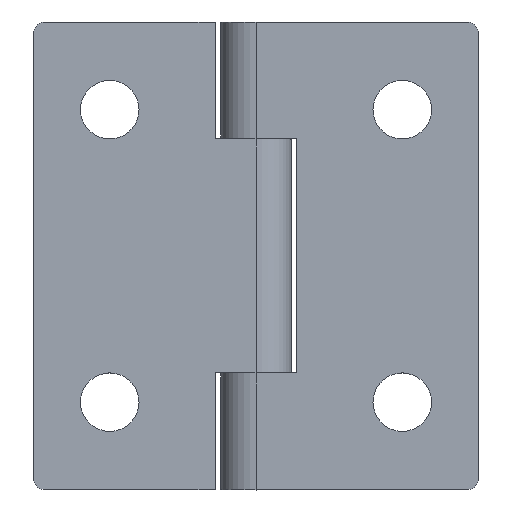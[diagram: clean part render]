
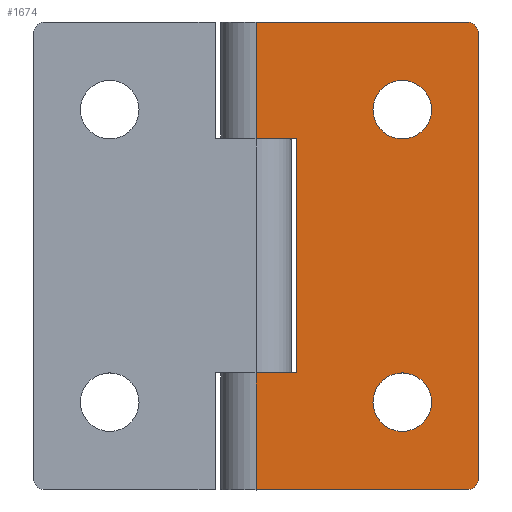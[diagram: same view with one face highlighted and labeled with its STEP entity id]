
A CAD part, top view. The second image highlights one B-rep face of the part: STEP entity #1674.
In plain terms, the highlighted planar face has unit normal (0, 0, 1).
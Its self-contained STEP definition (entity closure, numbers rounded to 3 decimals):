
#24 = CIRCLE ( 'NONE', #1580, 2.5 ) ;
#39 = EDGE_LOOP ( 'NONE', ( #1822, #1374 ) ) ;
#42 = ORIENTED_EDGE ( 'NONE', *, *, #43, .T. ) ;
#43 = EDGE_CURVE ( 'NONE', #1306, #1433, #698, .T. ) ;
#64 = CARTESIAN_POINT ( 'NONE',  ( 19., 39., 3. ) ) ;
#69 = VECTOR ( 'NONE', #1516, 1000. ) ;
#159 = LINE ( 'NONE', #240, #1702 ) ;
#187 = VECTOR ( 'NONE', #322, 1000. ) ;
#200 = ORIENTED_EDGE ( 'NONE', *, *, #708, .F. ) ;
#209 = VERTEX_POINT ( 'NONE', #1274 ) ;
#240 = CARTESIAN_POINT ( 'NONE',  ( 0., 10., 3. ) ) ;
#260 = CARTESIAN_POINT ( 'NONE',  ( 0., 30., 3. ) ) ;
#305 = CARTESIAN_POINT ( 'NONE',  ( 12.5, 7.5, 3. ) ) ;
#309 = EDGE_CURVE ( 'NONE', #1433, #1281, #1877, .T. ) ;
#322 = DIRECTION ( 'NONE',  ( -1., 0., 0. ) ) ;
#344 = FACE_BOUND ( 'NONE', #39, .T. ) ;
#350 = CARTESIAN_POINT ( 'NONE',  ( 0., 40., 3. ) ) ;
#365 = VECTOR ( 'NONE', #852, 1000. ) ;
#374 = CARTESIAN_POINT ( 'NONE',  ( 12.5, 32.5, 3. ) ) ;
#396 = ORIENTED_EDGE ( 'NONE', *, *, #1036, .F. ) ;
#416 = VERTEX_POINT ( 'NONE', #1062 ) ;
#428 = ORIENTED_EDGE ( 'NONE', *, *, #735, .F. ) ;
#450 = DIRECTION ( 'NONE',  ( 1., 0., 0. ) ) ;
#453 = VERTEX_POINT ( 'NONE', #458 ) ;
#455 = LINE ( 'NONE', #1706, #1561 ) ;
#458 = CARTESIAN_POINT ( 'NONE',  ( 3.5, 10., 3. ) ) ;
#459 = CARTESIAN_POINT ( 'NONE',  ( 10., 7.5, 3. ) ) ;
#489 = AXIS2_PLACEMENT_3D ( 'NONE', #552, #1604, #705 ) ;
#490 = CARTESIAN_POINT ( 'NONE',  ( 19., 1., 3. ) ) ;
#491 = DIRECTION ( 'NONE',  ( 0., -1., 0. ) ) ;
#520 = DIRECTION ( 'NONE',  ( 1., 0., 0. ) ) ;
#533 = EDGE_LOOP ( 'NONE', ( #428, #849 ) ) ;
#540 = LINE ( 'NONE', #350, #1295 ) ;
#552 = CARTESIAN_POINT ( 'NONE',  ( 18., 1., 3. ) ) ;
#556 = CARTESIAN_POINT ( 'NONE',  ( 12.5, 32.5, 3. ) ) ;
#565 = DIRECTION ( 'NONE',  ( -1., 0., 0. ) ) ;
#585 = ORIENTED_EDGE ( 'NONE', *, *, #1675, .F. ) ;
#587 = VERTEX_POINT ( 'NONE', #1384 ) ;
#604 = EDGE_CURVE ( 'NONE', #1643, #814, #540, .T. ) ;
#637 = CIRCLE ( 'NONE', #489, 1. ) ;
#678 = LINE ( 'NONE', #862, #1476 ) ;
#684 = AXIS2_PLACEMENT_3D ( 'NONE', #1894, #1465, #565 ) ;
#690 = VECTOR ( 'NONE', #1660, 1000. ) ;
#698 = LINE ( 'NONE', #1752, #365 ) ;
#699 = CARTESIAN_POINT ( 'NONE',  ( 18., 39., 3. ) ) ;
#700 = CARTESIAN_POINT ( 'NONE',  ( 18., 0., 3. ) ) ;
#705 = DIRECTION ( 'NONE',  ( -1., 0., 0. ) ) ;
#708 = EDGE_CURVE ( 'NONE', #1197, #1143, #455, .T. ) ;
#709 = DIRECTION ( 'NONE',  ( 1., 0., 0. ) ) ;
#725 = FACE_OUTER_BOUND ( 'NONE', #1101, .T. ) ;
#735 = EDGE_CURVE ( 'NONE', #587, #209, #24, .T. ) ;
#742 = AXIS2_PLACEMENT_3D ( 'NONE', #556, #1608, #709 ) ;
#754 = ORIENTED_EDGE ( 'NONE', *, *, #1590, .T. ) ;
#805 = EDGE_CURVE ( 'NONE', #453, #1306, #159, .T. ) ;
#811 = EDGE_CURVE ( 'NONE', #209, #587, #899, .T. ) ;
#814 = VERTEX_POINT ( 'NONE', #260 ) ;
#831 = EDGE_CURVE ( 'NONE', #1479, #416, #1656, .T. ) ;
#844 = DIRECTION ( 'NONE',  ( -1., 0., 0. ) ) ;
#847 = ORIENTED_EDGE ( 'NONE', *, *, #805, .T. ) ;
#849 = ORIENTED_EDGE ( 'NONE', *, *, #811, .F. ) ;
#852 = DIRECTION ( 'NONE',  ( 0., -1., 0. ) ) ;
#856 = VERTEX_POINT ( 'NONE', #1170 ) ;
#859 = CARTESIAN_POINT ( 'NONE',  ( 12.5, 7.5, 3. ) ) ;
#861 = ORIENTED_EDGE ( 'NONE', *, *, #1835, .T. ) ;
#862 = CARTESIAN_POINT ( 'NONE',  ( 0., 40., 3. ) ) ;
#885 = CARTESIAN_POINT ( 'NONE',  ( 0., 0., 3. ) ) ;
#899 = CIRCLE ( 'NONE', #742, 2.5 ) ;
#910 = CARTESIAN_POINT ( 'NONE',  ( 0., 30., 3. ) ) ;
#969 = ORIENTED_EDGE ( 'NONE', *, *, #604, .T. ) ;
#1013 = DIRECTION ( 'NONE',  ( 1., 0., 0. ) ) ;
#1036 = EDGE_CURVE ( 'NONE', #856, #814, #1376, .T. ) ;
#1062 = CARTESIAN_POINT ( 'NONE',  ( 15., 7.5, 3. ) ) ;
#1081 = CARTESIAN_POINT ( 'NONE',  ( 0., 0., 3. ) ) ;
#1097 = ORIENTED_EDGE ( 'NONE', *, *, #309, .T. ) ;
#1101 = EDGE_LOOP ( 'NONE', ( #1097, #1842, #200, #754, #585, #969, #396, #861, #847, #42 ) ) ;
#1104 = AXIS2_PLACEMENT_3D ( 'NONE', #305, #1346, #450 ) ;
#1127 = FACE_BOUND ( 'NONE', #533, .T. ) ;
#1141 = AXIS2_PLACEMENT_3D ( 'NONE', #859, #1899, #1013 ) ;
#1143 = VERTEX_POINT ( 'NONE', #490 ) ;
#1157 = DIRECTION ( 'NONE',  ( -1., 0., 0. ) ) ;
#1170 = CARTESIAN_POINT ( 'NONE',  ( 3.5, 30., 3. ) ) ;
#1197 = VERTEX_POINT ( 'NONE', #64 ) ;
#1261 = DIRECTION ( 'NONE',  ( 0., -1., 0. ) ) ;
#1274 = CARTESIAN_POINT ( 'NONE',  ( 10., 32.5, 3. ) ) ;
#1281 = VERTEX_POINT ( 'NONE', #700 ) ;
#1290 = LINE ( 'NONE', #1361, #69 ) ;
#1295 = VECTOR ( 'NONE', #491, 1000. ) ;
#1300 = EDGE_CURVE ( 'NONE', #1281, #1143, #637, .T. ) ;
#1306 = VERTEX_POINT ( 'NONE', #1600 ) ;
#1313 = PLANE ( 'NONE',  #684 ) ;
#1335 = VERTEX_POINT ( 'NONE', #1744 ) ;
#1346 = DIRECTION ( 'NONE',  ( 0., 0., 1. ) ) ;
#1361 = CARTESIAN_POINT ( 'NONE',  ( 3.5, 0., 3. ) ) ;
#1374 = ORIENTED_EDGE ( 'NONE', *, *, #831, .F. ) ;
#1376 = LINE ( 'NONE', #910, #187 ) ;
#1384 = CARTESIAN_POINT ( 'NONE',  ( 15., 32.5, 3. ) ) ;
#1418 = DIRECTION ( 'NONE',  ( 0., 0., 1. ) ) ;
#1433 = VERTEX_POINT ( 'NONE', #885 ) ;
#1440 = EDGE_CURVE ( 'NONE', #416, #1479, #1447, .T. ) ;
#1447 = CIRCLE ( 'NONE', #1104, 2.5 ) ;
#1465 = DIRECTION ( 'NONE',  ( 0., 0., -1. ) ) ;
#1476 = VECTOR ( 'NONE', #1902, 1000. ) ;
#1479 = VERTEX_POINT ( 'NONE', #459 ) ;
#1516 = DIRECTION ( 'NONE',  ( 0., -1., 0. ) ) ;
#1561 = VECTOR ( 'NONE', #1261, 1000. ) ;
#1580 = AXIS2_PLACEMENT_3D ( 'NONE', #374, #1418, #520 ) ;
#1590 = EDGE_CURVE ( 'NONE', #1197, #1335, #1709, .T. ) ;
#1600 = CARTESIAN_POINT ( 'NONE',  ( 0., 10., 3. ) ) ;
#1604 = DIRECTION ( 'NONE',  ( 0., 0., 1. ) ) ;
#1608 = DIRECTION ( 'NONE',  ( 0., 0., 1. ) ) ;
#1643 = VERTEX_POINT ( 'NONE', #1890 ) ;
#1656 = CIRCLE ( 'NONE', #1141, 2.5 ) ;
#1660 = DIRECTION ( 'NONE',  ( 1., 0., 0. ) ) ;
#1674 = ADVANCED_FACE ( 'NONE', ( #1127, #344, #725 ), #1313, .F. ) ;
#1675 = EDGE_CURVE ( 'NONE', #1643, #1335, #678, .T. ) ;
#1702 = VECTOR ( 'NONE', #1157, 1000. ) ;
#1706 = CARTESIAN_POINT ( 'NONE',  ( 19., 40., 3. ) ) ;
#1709 = CIRCLE ( 'NONE', #1887, 1. ) ;
#1736 = DIRECTION ( 'NONE',  ( 0., 0., 1. ) ) ;
#1744 = CARTESIAN_POINT ( 'NONE',  ( 18., 40., 3. ) ) ;
#1752 = CARTESIAN_POINT ( 'NONE',  ( 0., 40., 3. ) ) ;
#1822 = ORIENTED_EDGE ( 'NONE', *, *, #1440, .F. ) ;
#1835 = EDGE_CURVE ( 'NONE', #856, #453, #1290, .T. ) ;
#1842 = ORIENTED_EDGE ( 'NONE', *, *, #1300, .T. ) ;
#1877 = LINE ( 'NONE', #1081, #690 ) ;
#1887 = AXIS2_PLACEMENT_3D ( 'NONE', #699, #1736, #844 ) ;
#1890 = CARTESIAN_POINT ( 'NONE',  ( 0., 40., 3. ) ) ;
#1894 = CARTESIAN_POINT ( 'NONE',  ( 0., 40., 3. ) ) ;
#1899 = DIRECTION ( 'NONE',  ( 0., 0., 1. ) ) ;
#1902 = DIRECTION ( 'NONE',  ( 1., 0., 0. ) ) ;
